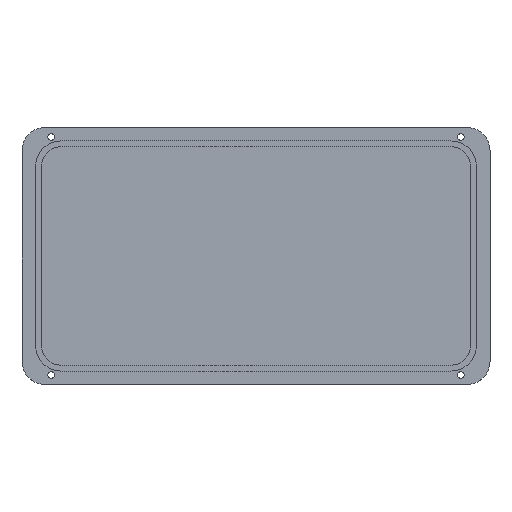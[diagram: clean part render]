
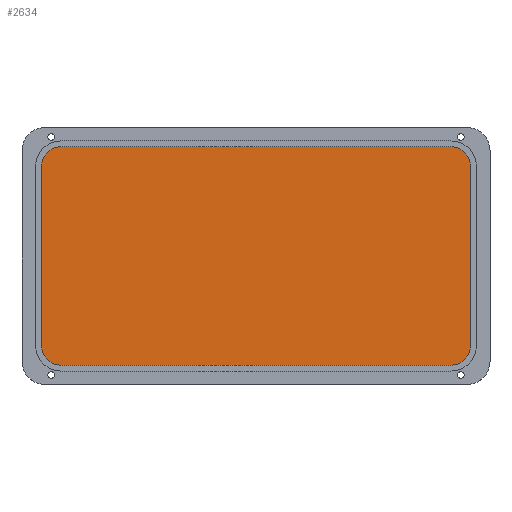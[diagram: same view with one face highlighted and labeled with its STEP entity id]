
A CAD part, top view. The second image highlights one B-rep face of the part: STEP entity #2634.
In plain terms, the highlighted planar face has unit normal (0, 0, 1).
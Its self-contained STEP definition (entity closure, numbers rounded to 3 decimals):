
#2034 = CYLINDRICAL_SURFACE('',#2035,10.);
#2035 = AXIS2_PLACEMENT_3D('',#2036,#2037,#2038);
#2036 = CARTESIAN_POINT('',(-100.,-46.,2.4));
#2037 = DIRECTION('',(0.,0.,1.));
#2038 = DIRECTION('',(-1.,-0.,0.));
#2061 = PLANE('',#2062);
#2062 = AXIS2_PLACEMENT_3D('',#2063,#2064,#2065);
#2063 = CARTESIAN_POINT('',(-110.,-56.,2.4));
#2064 = DIRECTION('',(1.,0.,-0.));
#2065 = DIRECTION('',(0.,0.,1.));
#2089 = CYLINDRICAL_SURFACE('',#2090,10.);
#2090 = AXIS2_PLACEMENT_3D('',#2091,#2092,#2093);
#2091 = CARTESIAN_POINT('',(-100.,46.,2.4));
#2092 = DIRECTION('',(0.,0.,1.));
#2093 = DIRECTION('',(-1.,-0.,0.));
#2116 = PLANE('',#2117);
#2117 = AXIS2_PLACEMENT_3D('',#2118,#2119,#2120);
#2118 = CARTESIAN_POINT('',(-110.,56.,2.4));
#2119 = DIRECTION('',(-0.,1.,0.));
#2120 = DIRECTION('',(0.,0.,1.));
#2144 = CYLINDRICAL_SURFACE('',#2145,10.);
#2145 = AXIS2_PLACEMENT_3D('',#2146,#2147,#2148);
#2146 = CARTESIAN_POINT('',(100.,46.,2.4));
#2147 = DIRECTION('',(0.,0.,1.));
#2148 = DIRECTION('',(1.,0.,-0.));
#2171 = PLANE('',#2172);
#2172 = AXIS2_PLACEMENT_3D('',#2173,#2174,#2175);
#2173 = CARTESIAN_POINT('',(110.,-56.,2.4));
#2174 = DIRECTION('',(1.,0.,-0.));
#2175 = DIRECTION('',(0.,0.,1.));
#2199 = CYLINDRICAL_SURFACE('',#2200,10.);
#2200 = AXIS2_PLACEMENT_3D('',#2201,#2202,#2203);
#2201 = CARTESIAN_POINT('',(100.,-46.,2.4));
#2202 = DIRECTION('',(0.,0.,1.));
#2203 = DIRECTION('',(1.,0.,-0.));
#2224 = PLANE('',#2225);
#2225 = AXIS2_PLACEMENT_3D('',#2226,#2227,#2228);
#2226 = CARTESIAN_POINT('',(-110.,-56.,2.4));
#2227 = DIRECTION('',(-0.,1.,0.));
#2228 = DIRECTION('',(0.,0.,1.));
#2246 = VERTEX_POINT('',#2247);
#2247 = CARTESIAN_POINT('',(-110.,-46.,4.));
#2270 = VERTEX_POINT('',#2271);
#2271 = CARTESIAN_POINT('',(-100.,-56.,4.));
#2292 = EDGE_CURVE('',#2246,#2270,#2293,.T.);
#2293 = SURFACE_CURVE('',#2294,(#2299,#2306),.PCURVE_S1.);
#2294 = CIRCLE('',#2295,10.);
#2295 = AXIS2_PLACEMENT_3D('',#2296,#2297,#2298);
#2296 = CARTESIAN_POINT('',(-100.,-46.,4.));
#2297 = DIRECTION('',(0.,0.,1.));
#2298 = DIRECTION('',(-1.,-0.,0.));
#2299 = PCURVE('',#2034,#2300);
#2300 = DEFINITIONAL_REPRESENTATION('',(#2301),#2305);
#2301 = LINE('',#2302,#2303);
#2302 = CARTESIAN_POINT('',(0.,1.6));
#2303 = VECTOR('',#2304,1.);
#2304 = DIRECTION('',(1.,0.));
#2305 = ( GEOMETRIC_REPRESENTATION_CONTEXT(2) 
PARAMETRIC_REPRESENTATION_CONTEXT() REPRESENTATION_CONTEXT('2D SPACE',''
  ) );
#2306 = PCURVE('',#2307,#2312);
#2307 = PLANE('',#2308);
#2308 = AXIS2_PLACEMENT_3D('',#2309,#2310,#2311);
#2309 = CARTESIAN_POINT('',(-120.,-66.,4.));
#2310 = DIRECTION('',(0.,0.,1.));
#2311 = DIRECTION('',(1.,0.,-0.));
#2312 = DEFINITIONAL_REPRESENTATION('',(#2313),#2317);
#2313 = CIRCLE('',#2314,10.);
#2314 = AXIS2_PLACEMENT_2D('',#2315,#2316);
#2315 = CARTESIAN_POINT('',(20.,20.));
#2316 = DIRECTION('',(-1.,0.));
#2317 = ( GEOMETRIC_REPRESENTATION_CONTEXT(2) 
PARAMETRIC_REPRESENTATION_CONTEXT() REPRESENTATION_CONTEXT('2D SPACE',''
  ) );
#2323 = VERTEX_POINT('',#2324);
#2324 = CARTESIAN_POINT('',(100.,-56.,4.));
#2347 = EDGE_CURVE('',#2323,#2270,#2348,.T.);
#2348 = SURFACE_CURVE('',#2349,(#2353,#2359),.PCURVE_S1.);
#2349 = LINE('',#2350,#2351);
#2350 = CARTESIAN_POINT('',(-115.,-56.,4.));
#2351 = VECTOR('',#2352,1.);
#2352 = DIRECTION('',(-1.,-0.,0.));
#2353 = PCURVE('',#2224,#2354);
#2354 = DEFINITIONAL_REPRESENTATION('',(#2355),#2358);
#2355 = B_SPLINE_CURVE_WITH_KNOTS('',1,(#2356,#2357),.UNSPECIFIED.,.F.,
  .F.,(2,2),(-215.,-15.),.PIECEWISE_BEZIER_KNOTS.);
#2356 = CARTESIAN_POINT('',(1.6,210.));
#2357 = CARTESIAN_POINT('',(1.6,10.));
#2358 = ( GEOMETRIC_REPRESENTATION_CONTEXT(2) 
PARAMETRIC_REPRESENTATION_CONTEXT() REPRESENTATION_CONTEXT('2D SPACE',''
  ) );
#2359 = PCURVE('',#2307,#2360);
#2360 = DEFINITIONAL_REPRESENTATION('',(#2361),#2364);
#2361 = B_SPLINE_CURVE_WITH_KNOTS('',1,(#2362,#2363),.UNSPECIFIED.,.F.,
  .F.,(2,2),(-215.,-15.),.PIECEWISE_BEZIER_KNOTS.);
#2362 = CARTESIAN_POINT('',(220.,10.));
#2363 = CARTESIAN_POINT('',(20.,10.));
#2364 = ( GEOMETRIC_REPRESENTATION_CONTEXT(2) 
PARAMETRIC_REPRESENTATION_CONTEXT() REPRESENTATION_CONTEXT('2D SPACE',''
  ) );
#2370 = VERTEX_POINT('',#2371);
#2371 = CARTESIAN_POINT('',(110.,-46.,4.));
#2394 = EDGE_CURVE('',#2323,#2370,#2395,.T.);
#2395 = SURFACE_CURVE('',#2396,(#2401,#2408),.PCURVE_S1.);
#2396 = CIRCLE('',#2397,10.);
#2397 = AXIS2_PLACEMENT_3D('',#2398,#2399,#2400);
#2398 = CARTESIAN_POINT('',(100.,-46.,4.));
#2399 = DIRECTION('',(0.,0.,1.));
#2400 = DIRECTION('',(1.,0.,-0.));
#2401 = PCURVE('',#2199,#2402);
#2402 = DEFINITIONAL_REPRESENTATION('',(#2403),#2407);
#2403 = LINE('',#2404,#2405);
#2404 = CARTESIAN_POINT('',(-6.283,1.6));
#2405 = VECTOR('',#2406,1.);
#2406 = DIRECTION('',(1.,-0.));
#2407 = ( GEOMETRIC_REPRESENTATION_CONTEXT(2) 
PARAMETRIC_REPRESENTATION_CONTEXT() REPRESENTATION_CONTEXT('2D SPACE',''
  ) );
#2408 = PCURVE('',#2307,#2409);
#2409 = DEFINITIONAL_REPRESENTATION('',(#2410),#2414);
#2410 = CIRCLE('',#2411,10.);
#2411 = AXIS2_PLACEMENT_2D('',#2412,#2413);
#2412 = CARTESIAN_POINT('',(220.,20.));
#2413 = DIRECTION('',(1.,0.));
#2414 = ( GEOMETRIC_REPRESENTATION_CONTEXT(2) 
PARAMETRIC_REPRESENTATION_CONTEXT() REPRESENTATION_CONTEXT('2D SPACE',''
  ) );
#2419 = EDGE_CURVE('',#2370,#2420,#2422,.T.);
#2420 = VERTEX_POINT('',#2421);
#2421 = CARTESIAN_POINT('',(110.,46.,4.));
#2422 = SURFACE_CURVE('',#2423,(#2427,#2433),.PCURVE_S1.);
#2423 = LINE('',#2424,#2425);
#2424 = CARTESIAN_POINT('',(110.,-61.,4.));
#2425 = VECTOR('',#2426,1.);
#2426 = DIRECTION('',(-0.,1.,0.));
#2427 = PCURVE('',#2171,#2428);
#2428 = DEFINITIONAL_REPRESENTATION('',(#2429),#2432);
#2429 = B_SPLINE_CURVE_WITH_KNOTS('',1,(#2430,#2431),.UNSPECIFIED.,.F.,
  .F.,(2,2),(15.,107.),.PIECEWISE_BEZIER_KNOTS.);
#2430 = CARTESIAN_POINT('',(1.6,-10.));
#2431 = CARTESIAN_POINT('',(1.6,-102.));
#2432 = ( GEOMETRIC_REPRESENTATION_CONTEXT(2) 
PARAMETRIC_REPRESENTATION_CONTEXT() REPRESENTATION_CONTEXT('2D SPACE',''
  ) );
#2433 = PCURVE('',#2307,#2434);
#2434 = DEFINITIONAL_REPRESENTATION('',(#2435),#2438);
#2435 = B_SPLINE_CURVE_WITH_KNOTS('',1,(#2436,#2437),.UNSPECIFIED.,.F.,
  .F.,(2,2),(15.,107.),.PIECEWISE_BEZIER_KNOTS.);
#2436 = CARTESIAN_POINT('',(230.,20.));
#2437 = CARTESIAN_POINT('',(230.,112.));
#2438 = ( GEOMETRIC_REPRESENTATION_CONTEXT(2) 
PARAMETRIC_REPRESENTATION_CONTEXT() REPRESENTATION_CONTEXT('2D SPACE',''
  ) );
#2469 = VERTEX_POINT('',#2470);
#2470 = CARTESIAN_POINT('',(100.,56.,4.));
#2491 = EDGE_CURVE('',#2420,#2469,#2492,.T.);
#2492 = SURFACE_CURVE('',#2493,(#2498,#2505),.PCURVE_S1.);
#2493 = CIRCLE('',#2494,10.);
#2494 = AXIS2_PLACEMENT_3D('',#2495,#2496,#2497);
#2495 = CARTESIAN_POINT('',(100.,46.,4.));
#2496 = DIRECTION('',(0.,0.,1.));
#2497 = DIRECTION('',(1.,0.,-0.));
#2498 = PCURVE('',#2144,#2499);
#2499 = DEFINITIONAL_REPRESENTATION('',(#2500),#2504);
#2500 = LINE('',#2501,#2502);
#2501 = CARTESIAN_POINT('',(0.,1.6));
#2502 = VECTOR('',#2503,1.);
#2503 = DIRECTION('',(1.,0.));
#2504 = ( GEOMETRIC_REPRESENTATION_CONTEXT(2) 
PARAMETRIC_REPRESENTATION_CONTEXT() REPRESENTATION_CONTEXT('2D SPACE',''
  ) );
#2505 = PCURVE('',#2307,#2506);
#2506 = DEFINITIONAL_REPRESENTATION('',(#2507),#2511);
#2507 = CIRCLE('',#2508,10.);
#2508 = AXIS2_PLACEMENT_2D('',#2509,#2510);
#2509 = CARTESIAN_POINT('',(220.,112.));
#2510 = DIRECTION('',(1.,0.));
#2511 = ( GEOMETRIC_REPRESENTATION_CONTEXT(2) 
PARAMETRIC_REPRESENTATION_CONTEXT() REPRESENTATION_CONTEXT('2D SPACE',''
  ) );
#2519 = VERTEX_POINT('',#2520);
#2520 = CARTESIAN_POINT('',(-100.,56.,4.));
#2541 = EDGE_CURVE('',#2469,#2519,#2542,.T.);
#2542 = SURFACE_CURVE('',#2543,(#2547,#2553),.PCURVE_S1.);
#2543 = LINE('',#2544,#2545);
#2544 = CARTESIAN_POINT('',(-115.,56.,4.));
#2545 = VECTOR('',#2546,1.);
#2546 = DIRECTION('',(-1.,-0.,0.));
#2547 = PCURVE('',#2116,#2548);
#2548 = DEFINITIONAL_REPRESENTATION('',(#2549),#2552);
#2549 = B_SPLINE_CURVE_WITH_KNOTS('',1,(#2550,#2551),.UNSPECIFIED.,.F.,
  .F.,(2,2),(-215.,-15.),.PIECEWISE_BEZIER_KNOTS.);
#2550 = CARTESIAN_POINT('',(1.6,210.));
#2551 = CARTESIAN_POINT('',(1.6,10.));
#2552 = ( GEOMETRIC_REPRESENTATION_CONTEXT(2) 
PARAMETRIC_REPRESENTATION_CONTEXT() REPRESENTATION_CONTEXT('2D SPACE',''
  ) );
#2553 = PCURVE('',#2307,#2554);
#2554 = DEFINITIONAL_REPRESENTATION('',(#2555),#2558);
#2555 = B_SPLINE_CURVE_WITH_KNOTS('',1,(#2556,#2557),.UNSPECIFIED.,.F.,
  .F.,(2,2),(-215.,-15.),.PIECEWISE_BEZIER_KNOTS.);
#2556 = CARTESIAN_POINT('',(220.,122.));
#2557 = CARTESIAN_POINT('',(20.,122.));
#2558 = ( GEOMETRIC_REPRESENTATION_CONTEXT(2) 
PARAMETRIC_REPRESENTATION_CONTEXT() REPRESENTATION_CONTEXT('2D SPACE',''
  ) );
#2564 = VERTEX_POINT('',#2565);
#2565 = CARTESIAN_POINT('',(-110.,46.,4.));
#2588 = EDGE_CURVE('',#2519,#2564,#2589,.T.);
#2589 = SURFACE_CURVE('',#2590,(#2595,#2602),.PCURVE_S1.);
#2590 = CIRCLE('',#2591,10.);
#2591 = AXIS2_PLACEMENT_3D('',#2592,#2593,#2594);
#2592 = CARTESIAN_POINT('',(-100.,46.,4.));
#2593 = DIRECTION('',(0.,0.,1.));
#2594 = DIRECTION('',(-1.,-0.,0.));
#2595 = PCURVE('',#2089,#2596);
#2596 = DEFINITIONAL_REPRESENTATION('',(#2597),#2601);
#2597 = LINE('',#2598,#2599);
#2598 = CARTESIAN_POINT('',(-6.283,1.6));
#2599 = VECTOR('',#2600,1.);
#2600 = DIRECTION('',(1.,-0.));
#2601 = ( GEOMETRIC_REPRESENTATION_CONTEXT(2) 
PARAMETRIC_REPRESENTATION_CONTEXT() REPRESENTATION_CONTEXT('2D SPACE',''
  ) );
#2602 = PCURVE('',#2307,#2603);
#2603 = DEFINITIONAL_REPRESENTATION('',(#2604),#2608);
#2604 = CIRCLE('',#2605,10.);
#2605 = AXIS2_PLACEMENT_2D('',#2606,#2607);
#2606 = CARTESIAN_POINT('',(20.,112.));
#2607 = DIRECTION('',(-1.,0.));
#2608 = ( GEOMETRIC_REPRESENTATION_CONTEXT(2) 
PARAMETRIC_REPRESENTATION_CONTEXT() REPRESENTATION_CONTEXT('2D SPACE',''
  ) );
#2613 = EDGE_CURVE('',#2246,#2564,#2614,.T.);
#2614 = SURFACE_CURVE('',#2615,(#2619,#2625),.PCURVE_S1.);
#2615 = LINE('',#2616,#2617);
#2616 = CARTESIAN_POINT('',(-110.,-61.,4.));
#2617 = VECTOR('',#2618,1.);
#2618 = DIRECTION('',(-0.,1.,0.));
#2619 = PCURVE('',#2061,#2620);
#2620 = DEFINITIONAL_REPRESENTATION('',(#2621),#2624);
#2621 = B_SPLINE_CURVE_WITH_KNOTS('',1,(#2622,#2623),.UNSPECIFIED.,.F.,
  .F.,(2,2),(15.,107.),.PIECEWISE_BEZIER_KNOTS.);
#2622 = CARTESIAN_POINT('',(1.6,-10.));
#2623 = CARTESIAN_POINT('',(1.6,-102.));
#2624 = ( GEOMETRIC_REPRESENTATION_CONTEXT(2) 
PARAMETRIC_REPRESENTATION_CONTEXT() REPRESENTATION_CONTEXT('2D SPACE',''
  ) );
#2625 = PCURVE('',#2307,#2626);
#2626 = DEFINITIONAL_REPRESENTATION('',(#2627),#2630);
#2627 = B_SPLINE_CURVE_WITH_KNOTS('',1,(#2628,#2629),.UNSPECIFIED.,.F.,
  .F.,(2,2),(15.,107.),.PIECEWISE_BEZIER_KNOTS.);
#2628 = CARTESIAN_POINT('',(10.,20.));
#2629 = CARTESIAN_POINT('',(10.,112.));
#2630 = ( GEOMETRIC_REPRESENTATION_CONTEXT(2) 
PARAMETRIC_REPRESENTATION_CONTEXT() REPRESENTATION_CONTEXT('2D SPACE',''
  ) );
#2634 = ADVANCED_FACE('',(#2635),#2307,.T.);
#2635 = FACE_BOUND('',#2636,.T.);
#2636 = EDGE_LOOP('',(#2637,#2638,#2639,#2640,#2641,#2642,#2643,#2644));
#2637 = ORIENTED_EDGE('',*,*,#2613,.F.);
#2638 = ORIENTED_EDGE('',*,*,#2292,.T.);
#2639 = ORIENTED_EDGE('',*,*,#2347,.F.);
#2640 = ORIENTED_EDGE('',*,*,#2394,.T.);
#2641 = ORIENTED_EDGE('',*,*,#2419,.T.);
#2642 = ORIENTED_EDGE('',*,*,#2491,.T.);
#2643 = ORIENTED_EDGE('',*,*,#2541,.T.);
#2644 = ORIENTED_EDGE('',*,*,#2588,.T.);
